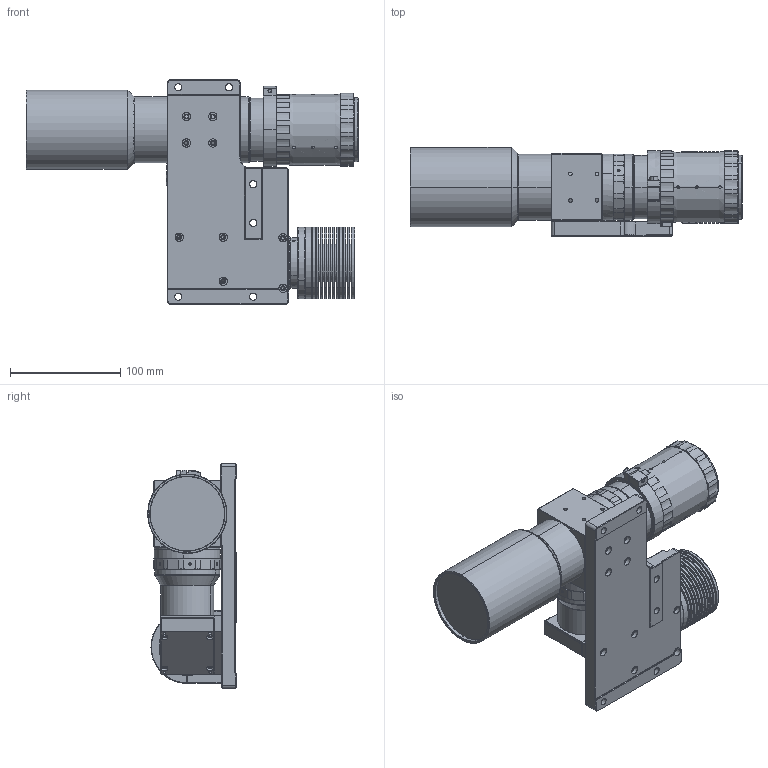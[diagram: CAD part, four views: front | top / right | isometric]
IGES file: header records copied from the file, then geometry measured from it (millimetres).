
Start section: SolidWorks IGES file using analytic representation for surfaces
Global section: file name: E:\图纸\镜头\DTCA\35F\1X-DTCA35F-44C-G-M58-AL (光栏：MA266-00-01)  -曾\A2.0\3D\DTCA35F-44CL30-G-M58-AL.IGS; native system: SolidWorks 2017; preprocessor: SolidWorks 2017; author: gc; date: 240318.151111; units: millimetre
Bounding box: 301.29 x 80.5 x 204 mm (x, y, z)
Surface area: 255431.7 mm2 (no closed solid volume)
Topology: 0 solids, 0 shells, 1304 faces, 23008 edges, 22976 vertices
Faces by surface type: revolution 899, bspline 405
